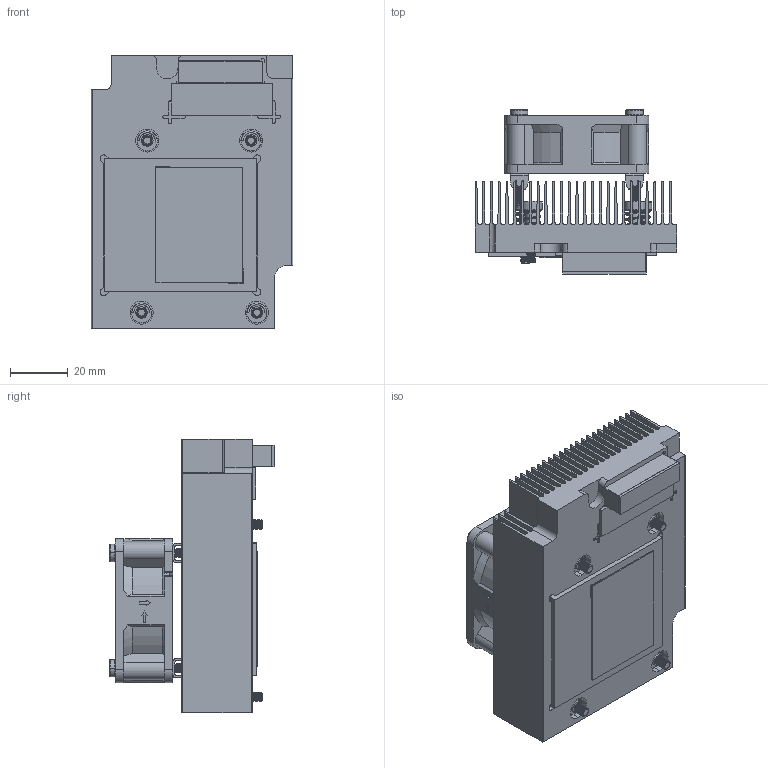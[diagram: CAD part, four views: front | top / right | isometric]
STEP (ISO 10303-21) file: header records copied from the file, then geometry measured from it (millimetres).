
FILE_DESCRIPTION((''),'2;1');
FILE_NAME('E1961121350008R_ZHI-HANG_ASM','2023-07-12T14:36:27',('isaac_lin'),(''),'CREO PARAMETRIC BY PTC INC, 2022284','CREO PARAMETRIC BY PTC INC, 2022284','');
FILE_SCHEMA(('CONFIG_CONTROL_DESIGN'));
Length unit declared in the file: millimetre
Products named in the file (16): 2ME-EX-U012-20-0079_1_3; CU-FOR-CPU_10_1_1_1; AL-ISL99390FRZ-TR5935_3_1_1_1; PSX_40X30X0-4T_4_1_1_1; BS75K-35X11XT1_25_1_1_1_1; BS75K-29X7_5XT1_0_2_1_1_1; FAN-5020_4_1_1_1_1; FAN-5020_4_2_1_1_1; FAN-5020_4_ASM_1_ASM_1_ASM_1_ASM; FAN_PIN_17_1_1_1; SCREW_D3_1_1_1; SCREW-M3_4_1_1_1; SPRING-M2_5-1_32LB-2-F13_1_1_1_; E-RING-M3_4_1_1_1; E1961121350008R_ASM_50_ASM_4_ASM; E1961121350008R_ZHI-HANG_ASM
Assembly tree (30 placements, depth 4):
  E1961121350008R_ZHI-HANG_ASM
    E1961121350008R_ASM_50_ASM_4_ASM
      2ME-EX-U012-20-0079_1_3
      CU-FOR-CPU_10_1_1_1
      AL-ISL99390FRZ-TR5935_3_1_1_1
      PSX_40X30X0-4T_4_1_1_1
      BS75K-35X11XT1_25_1_1_1_1
      BS75K-29X7_5XT1_0_2_1_1_1
      FAN-5020_4_ASM_1_ASM_1_ASM_1_ASM
        FAN-5020_4_1_1_1_1
        FAN-5020_4_2_1_1_1
      FAN_PIN_17_1_1_1  x4
      SCREW_D3_1_1_1  x4
      SCREW-M3_4_1_1_1  x4
      SPRING-M2_5-1_32LB-2-F13_1_1_1_  x4
      E-RING-M3_4_1_1_1  x4
Bounding box: 70 x 57.2 x 95 mm (x, y, z)
Volume: 103895 mm3; surface area: 115343.7 mm2
Topology: 28 solids, 28 shells, 1513 faces, 4348 edges, 2939 vertices
Faces by surface type: cylinder 698, plane 571, bspline 146, cone 56, torus 42
Entity records: 41379 total; most frequent: CARTESIAN_POINT 18841, ORIENTED_EDGE 4934, DIRECTION 4401, EDGE_CURVE 2467, VERTEX_POINT 1676, AXIS2_PLACEMENT_3D 1595, VECTOR 1211, LINE 1211
